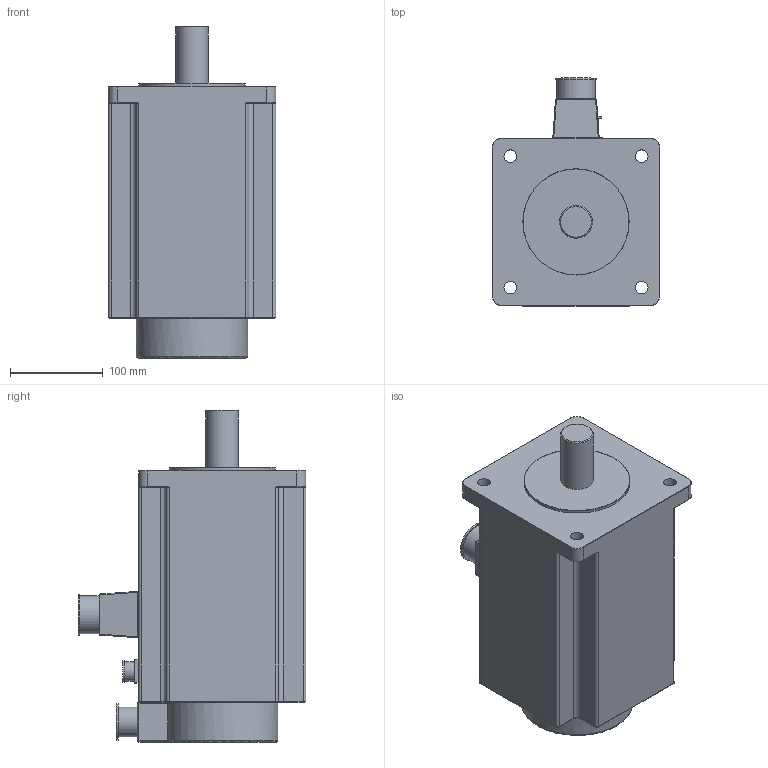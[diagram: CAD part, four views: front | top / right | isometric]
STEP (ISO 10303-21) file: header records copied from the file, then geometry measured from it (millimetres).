
FILE_DESCRIPTION(/* description */ (''),/* implementation_level */ '2;1');
FILE_NAME(/* name */ '180MAH19015 - FZ.stp',/* time_stamp */ '2019-11-22T13:56:05+08:00',/* author */ (''),/* organization */ (''),/* preprocessor_version */ 'ST-DEVELOPER v16',/* originating_system */ 'SIEMENS PLM Software NX 10.0',/* authorisation */ '');
FILE_SCHEMA (('CONFIG_CONTROL_DESIGN'));
Length unit declared in the file: millimetre
Products named in the file (1): 180MAH19015 - FZ
Bounding box: 180 x 245 x 357.01 mm (x, y, z)
Volume: 8018011.9 mm3; surface area: 284425.7 mm2
Topology: 1 solids, 1 shells, 195 faces, 441 edges, 244 vertices
Faces by surface type: cylinder 92, plane 41, torus 37, bspline 12, sphere 11, cone 2
Full cylindrical faces by diameter (mm): 13.5 x4, 21 x1, 23 x1, 32 x1, 35 x1, 39 x1, 41 x1, 44 x1, 114.3 x1
Entity records: 5419 total; most frequent: CARTESIAN_POINT 1097, DIRECTION 973, ORIENTED_EDGE 810, AXIS2_PLACEMENT_3D 406, EDGE_CURVE 405, VERTEX_POINT 238, EDGE_LOOP 229, CIRCLE 212
